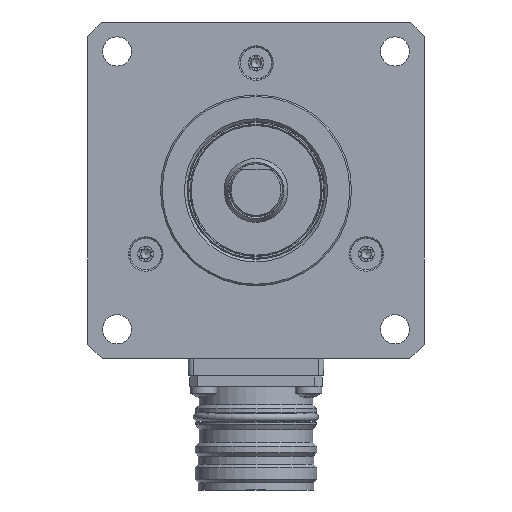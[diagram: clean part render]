
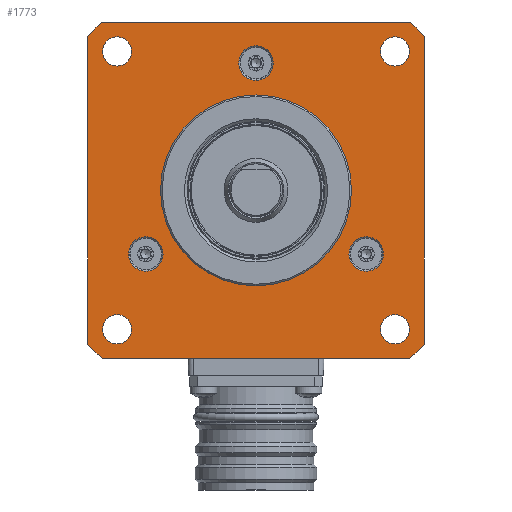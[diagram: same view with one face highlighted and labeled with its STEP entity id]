
A CAD part, left-side view. The second image highlights one B-rep face of the part: STEP entity #1773.
In plain terms, the highlighted planar face has unit normal (-1, 0, 0).
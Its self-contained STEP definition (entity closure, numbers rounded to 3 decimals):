
#1773 = ADVANCED_FACE( '', ( #3953, #3954, #3955, #3956, #3957, #3958, #3959, #3960, #3961 ), #3962, .T. );
#3953 = FACE_OUTER_BOUND( '', #10626, .T. );
#3954 = FACE_BOUND( '', #10627, .T. );
#3955 = FACE_BOUND( '', #10628, .T. );
#3956 = FACE_BOUND( '', #10629, .T. );
#3957 = FACE_BOUND( '', #10630, .T. );
#3958 = FACE_BOUND( '', #10631, .T. );
#3959 = FACE_BOUND( '', #10632, .T. );
#3960 = FACE_BOUND( '', #10633, .T. );
#3961 = FACE_BOUND( '', #10634, .T. );
#3962 = PLANE( '', #10635 );
#10626 = EDGE_LOOP( '', ( #17505, #17506, #17507, #17508, #17509, #17510, #17511, #17512 ) );
#10627 = EDGE_LOOP( '', ( #17513 ) );
#10628 = EDGE_LOOP( '', ( #17514 ) );
#10629 = EDGE_LOOP( '', ( #17515 ) );
#10630 = EDGE_LOOP( '', ( #17516 ) );
#10631 = EDGE_LOOP( '', ( #17517 ) );
#10632 = EDGE_LOOP( '', ( #17518 ) );
#10633 = EDGE_LOOP( '', ( #17519 ) );
#10634 = EDGE_LOOP( '', ( #17520 ) );
#10635 = AXIS2_PLACEMENT_3D( '', #17521, #17522, #17523 );
#17505 = ORIENTED_EDGE( '', *, *, #20672, .F. );
#17506 = ORIENTED_EDGE( '', *, *, #21183, .F. );
#17507 = ORIENTED_EDGE( '', *, *, #19950, .F. );
#17508 = ORIENTED_EDGE( '', *, *, #21473, .F. );
#17509 = ORIENTED_EDGE( '', *, *, #19716, .F. );
#17510 = ORIENTED_EDGE( '', *, *, #21474, .F. );
#17511 = ORIENTED_EDGE( '', *, *, #20265, .F. );
#17512 = ORIENTED_EDGE( '', *, *, #19897, .F. );
#17513 = ORIENTED_EDGE( '', *, *, #21475, .T. );
#17514 = ORIENTED_EDGE( '', *, *, #19926, .T. );
#17515 = ORIENTED_EDGE( '', *, *, #19762, .T. );
#17516 = ORIENTED_EDGE( '', *, *, #20504, .F. );
#17517 = ORIENTED_EDGE( '', *, *, #20057, .F. );
#17518 = ORIENTED_EDGE( '', *, *, #21308, .F. );
#17519 = ORIENTED_EDGE( '', *, *, #21476, .F. );
#17520 = ORIENTED_EDGE( '', *, *, #20332, .F. );
#17521 = CARTESIAN_POINT( '', ( 7.62, -0.449, 0. ) );
#17522 = DIRECTION( '', ( -1., 0., 0. ) );
#17523 = DIRECTION( '', ( 0., 0., 1. ) );
#19716 = EDGE_CURVE( '', #21983, #21984, #21985, .T. );
#19762 = EDGE_CURVE( '', #22063, #22063, #22064, .T. );
#19897 = EDGE_CURVE( '', #22299, #22300, #22301, .T. );
#19926 = EDGE_CURVE( '', #22350, #22350, #22351, .T. );
#19950 = EDGE_CURVE( '', #22391, #22392, #22393, .T. );
#20057 = EDGE_CURVE( '', #22569, #22569, #22570, .T. );
#20265 = EDGE_CURVE( '', #22300, #22924, #22925, .T. );
#20332 = EDGE_CURVE( '', #23035, #23035, #23036, .T. );
#20504 = EDGE_CURVE( '', #23301, #23301, #23302, .T. );
#20672 = EDGE_CURVE( '', #23564, #22299, #23565, .T. );
#21183 = EDGE_CURVE( '', #22392, #23564, #24294, .T. );
#21308 = EDGE_CURVE( '', #24464, #24464, #24465, .T. );
#21473 = EDGE_CURVE( '', #21984, #22391, #24681, .T. );
#21474 = EDGE_CURVE( '', #22924, #21983, #24682, .T. );
#21475 = EDGE_CURVE( '', #24683, #24683, #24684, .T. );
#21476 = EDGE_CURVE( '', #24685, #24685, #24686, .T. );
#21983 = VERTEX_POINT( '', #25284 );
#21984 = VERTEX_POINT( '', #25285 );
#21985 = CIRCLE( '', #25286, 43. );
#22063 = VERTEX_POINT( '', #33307 );
#22064 = CIRCLE( '', #33308, 3.25 );
#22299 = VERTEX_POINT( '', #33832 );
#22300 = VERTEX_POINT( '', #33833 );
#22301 = LINE( '', #33834, #33835 );
#22350 = VERTEX_POINT( '', #33907 );
#22351 = CIRCLE( '', #33908, 3.25 );
#22391 = VERTEX_POINT( '', #34002 );
#22392 = VERTEX_POINT( '', #34003 );
#22393 = CIRCLE( '', #34004, 43. );
#22569 = VERTEX_POINT( '', #34307 );
#22570 = CIRCLE( '', #34308, 2.75 );
#22924 = VERTEX_POINT( '', #39712 );
#22925 = CIRCLE( '', #39713, 43. );
#23035 = VERTEX_POINT( '', #43469 );
#23036 = CIRCLE( '', #43470, 18. );
#23301 = VERTEX_POINT( '', #44042 );
#23302 = CIRCLE( '', #44043, 2.75 );
#23564 = VERTEX_POINT( '', #47406 );
#23565 = CIRCLE( '', #47407, 43. );
#24294 = LINE( '', #53204, #53205 );
#24464 = VERTEX_POINT( '', #53639 );
#24465 = CIRCLE( '', #53640, 2.75 );
#24681 = LINE( '', #54180, #54181 );
#24682 = LINE( '', #54182, #54183 );
#24683 = VERTEX_POINT( '', #54184 );
#24684 = CIRCLE( '', #54185, 3.25 );
#24685 = VERTEX_POINT( '', #54186 );
#24686 = CIRCLE( '', #54187, 2.75 );
#25284 = CARTESIAN_POINT( '', ( 7.62, 31.75, 28.999 ) );
#25285 = CARTESIAN_POINT( '', ( 7.62, 28.999, 31.75 ) );
#25286 = AXIS2_PLACEMENT_3D( '', #61233, #61234, #61235 );
#33307 = CARTESIAN_POINT( '', ( 7.62, 0., 27.25 ) );
#33308 = AXIS2_PLACEMENT_3D( '', #61287, #61288, #61289 );
#33832 = CARTESIAN_POINT( '', ( 7.62, -28.999, -31.75 ) );
#33833 = CARTESIAN_POINT( '', ( 7.62, 28.999, -31.75 ) );
#33834 = CARTESIAN_POINT( '', ( 7.62, 28.999, -31.75 ) );
#33835 = VECTOR( '', #61418, 1000. );
#33907 = CARTESIAN_POINT( '', ( 7.62, -23.599, -13.625 ) );
#33908 = AXIS2_PLACEMENT_3D( '', #61457, #61458, #61459 );
#34002 = CARTESIAN_POINT( '', ( 7.62, -28.999, 31.75 ) );
#34003 = CARTESIAN_POINT( '', ( 7.62, -31.75, 28.999 ) );
#34004 = AXIS2_PLACEMENT_3D( '', #61476, #61477, #61478 );
#34307 = CARTESIAN_POINT( '', ( 7.62, -28.95, 26.2 ) );
#34308 = AXIS2_PLACEMENT_3D( '', #61609, #61610, #61611 );
#39712 = CARTESIAN_POINT( '', ( 7.62, 31.75, -28.999 ) );
#39713 = AXIS2_PLACEMENT_3D( '', #61843, #61844, #61845 );
#43469 = CARTESIAN_POINT( '', ( 7.62, -18., 0. ) );
#43470 = AXIS2_PLACEMENT_3D( '', #61911, #61912, #61913 );
#44042 = CARTESIAN_POINT( '', ( 7.62, 23.45, 26.2 ) );
#44043 = AXIS2_PLACEMENT_3D( '', #62098, #62099, #62100 );
#47406 = CARTESIAN_POINT( '', ( 7.62, -31.75, -28.999 ) );
#47407 = AXIS2_PLACEMENT_3D( '', #62298, #62299, #62300 );
#53204 = CARTESIAN_POINT( '', ( 7.62, -31.75, -28.999 ) );
#53205 = VECTOR( '', #62728, 1000. );
#53639 = CARTESIAN_POINT( '', ( 7.62, -28.95, -26.2 ) );
#53640 = AXIS2_PLACEMENT_3D( '', #62823, #62824, #62825 );
#54180 = CARTESIAN_POINT( '', ( 7.62, -28.999, 31.75 ) );
#54181 = VECTOR( '', #62961, 1000. );
#54182 = CARTESIAN_POINT( '', ( 7.62, 31.75, 28.999 ) );
#54183 = VECTOR( '', #62962, 1000. );
#54184 = CARTESIAN_POINT( '', ( 7.62, 23.599, -13.625 ) );
#54185 = AXIS2_PLACEMENT_3D( '', #62963, #62964, #62965 );
#54186 = CARTESIAN_POINT( '', ( 7.62, 23.45, -26.2 ) );
#54187 = AXIS2_PLACEMENT_3D( '', #62966, #62967, #62968 );
#61233 = CARTESIAN_POINT( '', ( 7.62, 0., 0. ) );
#61234 = DIRECTION( '', ( 1., 0., 0. ) );
#61235 = DIRECTION( '', ( 0., -1., 0. ) );
#61287 = CARTESIAN_POINT( '', ( 7.62, 0., 24. ) );
#61288 = DIRECTION( '', ( 1., 0., 0. ) );
#61289 = DIRECTION( '', ( 0., 0., 1. ) );
#61418 = DIRECTION( '', ( 0., 1., 0. ) );
#61457 = CARTESIAN_POINT( '', ( 7.62, -20.785, -12. ) );
#61458 = DIRECTION( '', ( 1., 0., 0. ) );
#61459 = DIRECTION( '', ( 0., -0.866, -0.5 ) );
#61476 = CARTESIAN_POINT( '', ( 7.62, 0., 0. ) );
#61477 = DIRECTION( '', ( 1., 0., 0. ) );
#61478 = DIRECTION( '', ( 0., -1., 0. ) );
#61609 = CARTESIAN_POINT( '', ( 7.62, -26.2, 26.2 ) );
#61610 = DIRECTION( '', ( -1., 0., 0. ) );
#61611 = DIRECTION( '', ( 0., -1., 0. ) );
#61843 = CARTESIAN_POINT( '', ( 7.62, 0., 0. ) );
#61844 = DIRECTION( '', ( 1., 0., 0. ) );
#61845 = DIRECTION( '', ( 0., -1., 0. ) );
#61911 = CARTESIAN_POINT( '', ( 7.62, 0., 0. ) );
#61912 = DIRECTION( '', ( -1., 0., 0. ) );
#61913 = DIRECTION( '', ( 0., -1., 0. ) );
#62098 = CARTESIAN_POINT( '', ( 7.62, 26.2, 26.2 ) );
#62099 = DIRECTION( '', ( -1., 0., 0. ) );
#62100 = DIRECTION( '', ( 0., -1., 0. ) );
#62298 = CARTESIAN_POINT( '', ( 7.62, 0., 0. ) );
#62299 = DIRECTION( '', ( 1., 0., 0. ) );
#62300 = DIRECTION( '', ( 0., -1., 0. ) );
#62728 = DIRECTION( '', ( 0., 0., -1. ) );
#62823 = CARTESIAN_POINT( '', ( 7.62, -26.2, -26.2 ) );
#62824 = DIRECTION( '', ( -1., 0., 0. ) );
#62825 = DIRECTION( '', ( 0., -1., 0. ) );
#62961 = DIRECTION( '', ( 0., -1., 0. ) );
#62962 = DIRECTION( '', ( 0., 0., 1. ) );
#62963 = CARTESIAN_POINT( '', ( 7.62, 20.785, -12. ) );
#62964 = DIRECTION( '', ( 1., 0., 0. ) );
#62965 = DIRECTION( '', ( 0., 0.866, -0.5 ) );
#62966 = CARTESIAN_POINT( '', ( 7.62, 26.2, -26.2 ) );
#62967 = DIRECTION( '', ( -1., 0., 0. ) );
#62968 = DIRECTION( '', ( 0., -1., 0. ) );
